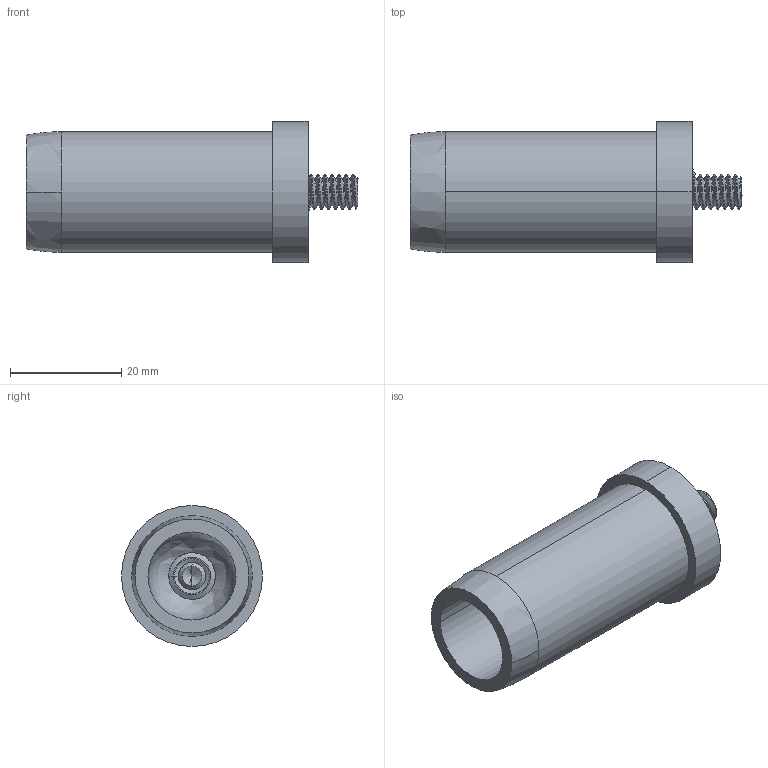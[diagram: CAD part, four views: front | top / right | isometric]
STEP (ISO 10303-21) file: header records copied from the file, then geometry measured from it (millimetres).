
FILE_DESCRIPTION (( 'STEP AP203' ), '1' );
FILE_NAME ('FDPCK-MC.875-S-END-STUD-S.step', '2019-09-11T18:38:10', ( 'ydmin' ), ( '' ), 'SwSTEP 2.0', 'SolidWorks 2017', '' );
FILE_SCHEMA (( 'CONFIG_CONTROL_DESIGN' ));
Length unit declared in the file: inch
Products named in the file (1): FDPCK-MC.875-S-END-STUD-S
Bounding box: 59.8 x 25.4 x 25.4 mm (x, y, z)
Volume: 11740.7 mm3; surface area: 8029.9 mm2
Topology: 3 solids, 3 shells, 84 faces, 215 edges, 134 vertices
Faces by surface type: cylinder 36, plane 18, cone 16, bspline 14
Entity records: 8415 total; most frequent: CARTESIAN_POINT 6585, ORIENTED_EDGE 418, DIRECTION 312, EDGE_CURVE 209, VERTEX_POINT 134, AXIS2_PLACEMENT_3D 117, EDGE_LOOP 89, FACE_OUTER_BOUND 84
